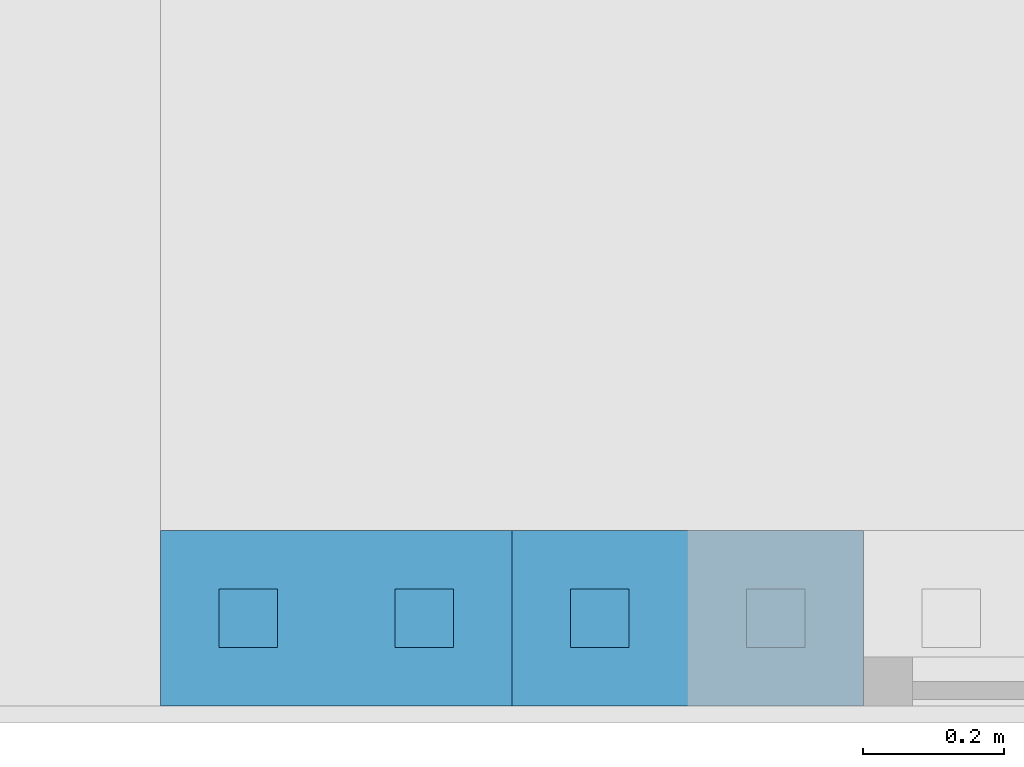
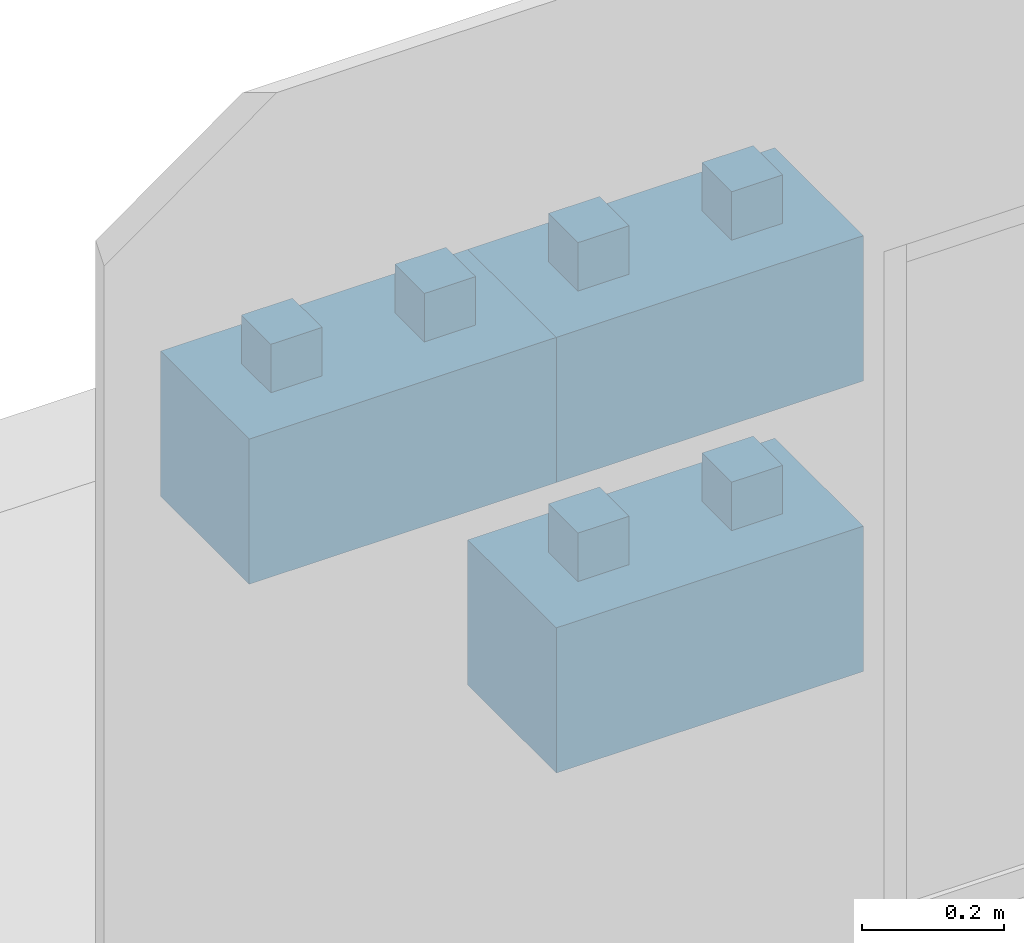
# One storey, part 3 of 9: 3 walls.
"""IFC4 building model written with IfcOpenShell, lengths in centimetres."""

from ifc_helpers import new_model, entity, si_unit, converted_unit, direction, frame, origin, place, context, subcontext, project, spatial, indexed_curve, outline, extrude, material, type_object, element, save


model = new_model("IFC4")

# Units and contexts
model_context = context("Model", 3, precision=0.001, world=origin(), true_north=direction((0.0, 1.0)))
body_context = subcontext(model_context, "Body", "Model", "MODEL_VIEW")
ifc_project = project(units=[si_unit("LENGTHUNIT", "METRE", prefix="CENTI"), si_unit("AREAUNIT", "SQUARE_METRE"), si_unit("VOLUMEUNIT", "CUBIC_METRE"), converted_unit("PLANEANGLEUNIT", "DEGREE", entity("IfcPlaneAngleMeasure", 0.017453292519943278), si_unit("PLANEANGLEUNIT", "RADIAN"), dimensions=[0, 0, 0, 0, 0, 0, 0])], contexts=[model_context])

# Site, building, storey
site_placement = place(None, origin())
site = spatial("IfcSite", under=ifc_project, at=site_placement, Name="Default", CompositionType="ELEMENT")
building_placement = place(site_placement, origin())
building = spatial("IfcBuilding", under=site, at=building_placement, CompositionType="ELEMENT")
storey_placement = place(building_placement, frame((0.0, 0.0, -4.0)))
storey = spatial("IfcBuildingStorey", under=building, at=storey_placement, Name="L00__ABOVE Slab", CompositionType="ELEMENT", Elevation=-4.000000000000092)

# Walls
ifc_material = material(Name="Miscellaneous__Timber Block__Triqbriq, X", Category="Miscellaneous")
wall_type = type_object("IfcWallType", Name="Columns : wll_s__TIMBER BLOCK__Triqbriq, Full Width__wp : WS25", PredefinedType="SOLIDWALL", material=ifc_material)
wall_1_placement = place(storey_placement, frame((2956.828914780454, 2128.520030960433, 200.0)))
element("IfcWall", 1, at=wall_1_placement, inside=storey, type_object=wall_type, material=ifc_material, Name="Columns : wll_s__TIMBER BLOCK__Triqbriq, Full Width__wp : WS25", PredefinedType="SOLIDWALL", context=body_context, shape_type="SweptSolid", body=[
    extrude(outline(indexed_curve([(-4.166666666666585, -4.166666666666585), (4.166666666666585, -4.166666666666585), (4.166666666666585, 4.166666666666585), (-4.166666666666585, 4.166666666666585), (-4.166666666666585, -4.166666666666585)], self_intersect=False)), frame((37.50000000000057, 12.500000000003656, 16.66666666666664), z_axis=(0.0, 0.0, 1.0), x_axis=(0.0, 1.0, 0.0)), (0.0, 0.0, 1.0), 16.66666666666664),
    extrude(outline(indexed_curve([(-4.166666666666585, -4.166666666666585), (4.166666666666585, -4.166666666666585), (4.166666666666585, 4.166666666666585), (-4.166666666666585, 4.166666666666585), (-4.166666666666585, -4.166666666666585)], self_intersect=False)), frame((12.500000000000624, 12.500000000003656, 16.666666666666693), z_axis=(0.0, 0.0, 1.0), x_axis=(0.0, 1.0, 0.0)), (0.0, 0.0, 1.0), 16.66666666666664),
    extrude(outline(indexed_curve([(-4.166666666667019, -4.166666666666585), (4.166666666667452, -4.166666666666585), (4.166666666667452, 4.166666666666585), (-4.166666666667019, 4.166666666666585), (-4.166666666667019, -4.166666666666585)], self_intersect=False)), frame((45.83333333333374, 20.833333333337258, 8.333333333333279), z_axis=(0.0, 0.0, 1.0), x_axis=(0.0, 1.0, 0.0)), (0.0, 0.0, 1.0), 8.333333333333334),
    extrude(outline(indexed_curve([(-4.166666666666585, -4.166666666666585), (4.166666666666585, -4.166666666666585), (4.166666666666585, 4.166666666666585), (-4.166666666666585, 4.166666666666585), (-4.166666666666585, -4.166666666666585)], self_intersect=False)), frame((45.83333333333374, 4.166666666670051, 8.333333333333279), z_axis=(0.0, 0.0, 1.0), x_axis=(0.0, 1.0, 0.0)), (0.0, 0.0, 1.0), 8.333333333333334),
    extrude(outline(indexed_curve([(-4.166666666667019, -4.166666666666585), (4.166666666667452, -4.166666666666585), (4.166666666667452, 4.166666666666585), (-4.166666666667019, 4.166666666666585), (-4.166666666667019, -4.166666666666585)], self_intersect=False)), frame((4.166666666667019, 20.833333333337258, 8.333333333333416), z_axis=(0.0, 0.0, 1.0), x_axis=(0.0, 1.0, 0.0)), (0.0, 0.0, 1.0), 8.333333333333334),
    extrude(outline(indexed_curve([(-4.166666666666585, -4.166666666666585), (4.166666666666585, -4.166666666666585), (4.166666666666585, 4.166666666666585), (-4.166666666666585, 4.166666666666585), (-4.166666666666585, -4.166666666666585)], self_intersect=False)), frame((4.166666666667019, 4.166666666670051, 8.333333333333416), z_axis=(0.0, 0.0, 1.0), x_axis=(0.0, 1.0, 0.0)), (0.0, 0.0, 1.0), 8.333333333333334),
    extrude(outline(indexed_curve([(-4.166666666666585, -8.333333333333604), (4.166666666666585, -8.333333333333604), (4.166666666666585, 8.33333333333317), (-4.166666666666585, 8.33333333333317), (-4.166666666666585, -8.333333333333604)], self_intersect=False)), frame((25.0, 4.166666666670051, 8.33333333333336), z_axis=(0.0, 0.0, 1.0), x_axis=(0.0, 1.0, 0.0)), (0.0, 0.0, 1.0), 8.333333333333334),
    extrude(outline(indexed_curve([(-4.166666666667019, -8.333333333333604), (4.166666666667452, -8.333333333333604), (4.166666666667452, 8.33333333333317), (-4.166666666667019, 8.33333333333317), (-4.166666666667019, -8.333333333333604)], self_intersect=False)), frame((25.0, 20.833333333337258, 8.33333333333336), z_axis=(0.0, 0.0, 1.0), x_axis=(0.0, 1.0, 0.0)), (0.0, 0.0, 1.0), 8.333333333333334),
    extrude(outline(indexed_curve([(-4.166666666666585, -24.999999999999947), (4.166666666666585, -24.999999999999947), (4.166666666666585, 24.999999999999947), (-4.166666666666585, 24.999999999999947), (-4.166666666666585, -24.999999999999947)], self_intersect=False)), frame((25.0, 12.500000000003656, 8.333333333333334), z_axis=(0.0, 0.0, 1.0), x_axis=(0.0, 1.0, 0.0)), (0.0, 0.0, 1.0), 8.333333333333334),
    extrude(outline(indexed_curve([(-12.500000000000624, -4.166666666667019), (12.50000000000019, -4.166666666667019), (12.50000000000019, 4.166666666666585), (-12.500000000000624, 4.166666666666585), (-12.500000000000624, -4.166666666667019)], self_intersect=False)), frame((29.1666666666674, 12.50000000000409, 0.0), z_axis=(0.0, 0.0, 1.0), x_axis=(0.0, 1.0, 0.0)), (0.0, 0.0, 1.0), 8.333333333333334),
    extrude(outline(indexed_curve([(-12.500000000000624, -4.166666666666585), (12.50000000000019, -4.166666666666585), (12.50000000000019, 4.166666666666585), (-12.500000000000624, 4.166666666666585), (-12.500000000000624, -4.166666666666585)], self_intersect=False)), frame((20.833333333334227, 12.50000000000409, 0.0), z_axis=(0.0, 0.0, 1.0), x_axis=(0.0, 1.0, 0.0)), (0.0, 0.0, 1.0), 8.333333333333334),
    extrude(outline(indexed_curve([(-12.500000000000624, -4.166666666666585), (12.50000000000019, -4.166666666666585), (12.50000000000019, 4.166666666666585), (-12.500000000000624, 4.166666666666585), (-12.500000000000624, -4.166666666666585)], self_intersect=False)), frame((45.833333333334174, 12.50000000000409, 0.0), z_axis=(0.0, 0.0, 1.0), x_axis=(0.0, 1.0, 0.0)), (0.0, 0.0, 1.0), 8.333333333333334),
    extrude(outline(indexed_curve([(-12.500000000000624, -4.166666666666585), (12.50000000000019, -4.166666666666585), (12.50000000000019, 4.166666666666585), (-12.500000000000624, 4.166666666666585), (-12.500000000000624, -4.166666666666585)], self_intersect=False)), frame((4.166666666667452, 12.50000000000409, 0.0), z_axis=(0.0, 0.0, 1.0), x_axis=(0.0, 1.0, 0.0)), (0.0, 0.0, 1.0), 8.333333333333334),
    extrude(outline(indexed_curve([(-4.166666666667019, -4.166666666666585), (4.166666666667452, -4.166666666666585), (4.166666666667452, 4.166666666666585), (-4.166666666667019, 4.166666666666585), (-4.166666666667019, -4.166666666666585)], self_intersect=False)), frame((37.500000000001, 20.833333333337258, 0.0), z_axis=(0.0, 0.0, 1.0), x_axis=(0.0, 1.0, 0.0)), (0.0, 0.0, 1.0), 24.999999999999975),
    extrude(outline(indexed_curve([(-4.166666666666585, -4.166666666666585), (4.166666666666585, -4.166666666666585), (4.166666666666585, 4.166666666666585), (-4.166666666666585, 4.166666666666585), (-4.166666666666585, -4.166666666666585)], self_intersect=False)), frame((37.500000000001, 4.166666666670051, 0.0), z_axis=(0.0, 0.0, 1.0), x_axis=(0.0, 1.0, 0.0)), (0.0, 0.0, 1.0), 24.999999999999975),
    extrude(outline(indexed_curve([(-4.166666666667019, -4.166666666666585), (4.166666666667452, -4.166666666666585), (4.166666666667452, 4.166666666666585), (-4.166666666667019, 4.166666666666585), (-4.166666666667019, -4.166666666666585)], self_intersect=False)), frame((12.500000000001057, 20.833333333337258, 0.0), z_axis=(0.0, 0.0, 1.0), x_axis=(0.0, 1.0, 0.0)), (0.0, 0.0, 1.0), 24.999999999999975),
    extrude(outline(indexed_curve([(-4.166666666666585, -4.166666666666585), (4.166666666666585, -4.166666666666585), (4.166666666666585, 4.166666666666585), (-4.166666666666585, 4.166666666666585), (-4.166666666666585, -4.166666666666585)], self_intersect=False)), frame((12.500000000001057, 4.166666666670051, 0.0), z_axis=(0.0, 0.0, 1.0), x_axis=(0.0, 1.0, 0.0)), (0.0, 0.0, 1.0), 24.999999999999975),
    extrude(outline(indexed_curve([(-12.500000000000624, -4.166666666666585), (12.50000000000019, -4.166666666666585), (12.50000000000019, 4.166666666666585), (-12.500000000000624, 4.166666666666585), (-12.500000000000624, -4.166666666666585)], self_intersect=False)), frame((45.83333333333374, 12.50000000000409, 16.666666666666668), z_axis=(0.0, 0.0, 1.0), x_axis=(0.0, 1.0, 0.0)), (0.0, 0.0, 1.0), 8.333333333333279),
    extrude(outline(indexed_curve([(-12.500000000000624, -4.166666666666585), (12.50000000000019, -4.166666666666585), (12.50000000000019, 4.166666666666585), (-12.500000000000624, 4.166666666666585), (-12.500000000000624, -4.166666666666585)], self_intersect=False)), frame((29.1666666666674, 12.50000000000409, 16.666666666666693), z_axis=(0.0, 0.0, 1.0), x_axis=(0.0, 1.0, 0.0)), (0.0, 0.0, 1.0), 8.333333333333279),
    extrude(outline(indexed_curve([(-12.500000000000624, -4.166666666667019), (12.50000000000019, -4.166666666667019), (12.50000000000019, 4.166666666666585), (-12.500000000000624, 4.166666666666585), (-12.500000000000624, -4.166666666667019)], self_intersect=False)), frame((20.833333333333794, 12.50000000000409, 16.66666666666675), z_axis=(0.0, 0.0, 1.0), x_axis=(0.0, 1.0, 0.0)), (0.0, 0.0, 1.0), 8.333333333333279),
    extrude(outline(indexed_curve([(-12.500000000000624, -4.166666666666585), (12.50000000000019, -4.166666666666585), (12.50000000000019, 4.166666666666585), (-12.500000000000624, 4.166666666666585), (-12.500000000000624, -4.166666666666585)], self_intersect=False)), frame((4.166666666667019, 12.50000000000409, 16.666666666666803), z_axis=(0.0, 0.0, 1.0), x_axis=(0.0, 1.0, 0.0)), (0.0, 0.0, 1.0), 8.333333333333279),
])
wall_2_placement = place(storey_placement, frame((2906.8289147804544, 2128.520030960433, 200.0)))
element("IfcWall", 2, at=wall_2_placement, inside=storey, type_object=wall_type, material=ifc_material, Name="Columns : wll_s__TIMBER BLOCK__Triqbriq, Full Width__wp : WS25", PredefinedType="SOLIDWALL", context=body_context, shape_type="SweptSolid", body=[
    extrude(outline(indexed_curve([(-4.166666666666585, -4.166666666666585), (4.166666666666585, -4.166666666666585), (4.166666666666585, 4.166666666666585), (-4.166666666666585, 4.166666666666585), (-4.166666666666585, -4.166666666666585)], self_intersect=False)), frame((37.50000000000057, 12.500000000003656, 16.666666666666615), z_axis=(0.0, 0.0, 1.0), x_axis=(0.0, 1.0, 0.0)), (0.0, 0.0, 1.0), 16.66666666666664),
    extrude(outline(indexed_curve([(-4.166666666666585, -4.166666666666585), (4.166666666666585, -4.166666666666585), (4.166666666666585, 4.166666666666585), (-4.166666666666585, 4.166666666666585), (-4.166666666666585, -4.166666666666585)], self_intersect=False)), frame((12.500000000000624, 12.500000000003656, 16.666666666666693), z_axis=(0.0, 0.0, 1.0), x_axis=(0.0, 1.0, 0.0)), (0.0, 0.0, 1.0), 16.66666666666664),
    extrude(outline(indexed_curve([(-4.166666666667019, -4.166666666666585), (4.166666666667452, -4.166666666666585), (4.166666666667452, 4.166666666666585), (-4.166666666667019, 4.166666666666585), (-4.166666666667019, -4.166666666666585)], self_intersect=False)), frame((45.83333333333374, 20.833333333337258, 8.333333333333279), z_axis=(0.0, 0.0, 1.0), x_axis=(0.0, 1.0, 0.0)), (0.0, 0.0, 1.0), 8.333333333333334),
    extrude(outline(indexed_curve([(-4.166666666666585, -4.166666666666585), (4.166666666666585, -4.166666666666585), (4.166666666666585, 4.166666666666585), (-4.166666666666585, 4.166666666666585), (-4.166666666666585, -4.166666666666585)], self_intersect=False)), frame((45.83333333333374, 4.166666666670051, 8.333333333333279), z_axis=(0.0, 0.0, 1.0), x_axis=(0.0, 1.0, 0.0)), (0.0, 0.0, 1.0), 8.333333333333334),
    extrude(outline(indexed_curve([(-4.166666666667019, -4.166666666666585), (4.166666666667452, -4.166666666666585), (4.166666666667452, 4.166666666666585), (-4.166666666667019, 4.166666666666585), (-4.166666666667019, -4.166666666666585)], self_intersect=False)), frame((4.166666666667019, 20.833333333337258, 8.333333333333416), z_axis=(0.0, 0.0, 1.0), x_axis=(0.0, 1.0, 0.0)), (0.0, 0.0, 1.0), 8.333333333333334),
    extrude(outline(indexed_curve([(-4.166666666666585, -4.166666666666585), (4.166666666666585, -4.166666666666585), (4.166666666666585, 4.166666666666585), (-4.166666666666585, 4.166666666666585), (-4.166666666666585, -4.166666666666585)], self_intersect=False)), frame((4.166666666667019, 4.166666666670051, 8.333333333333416), z_axis=(0.0, 0.0, 1.0), x_axis=(0.0, 1.0, 0.0)), (0.0, 0.0, 1.0), 8.333333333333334),
    extrude(outline(indexed_curve([(-4.166666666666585, -8.33333333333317), (4.166666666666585, -8.33333333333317), (4.166666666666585, 8.333333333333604), (-4.166666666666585, 8.333333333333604), (-4.166666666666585, -8.33333333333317)], self_intersect=False)), frame((25.0, 4.166666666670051, 8.333333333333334), z_axis=(0.0, 0.0, 1.0), x_axis=(0.0, 1.0, 0.0)), (0.0, 0.0, 1.0), 8.333333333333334),
    extrude(outline(indexed_curve([(-4.166666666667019, -8.33333333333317), (4.166666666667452, -8.33333333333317), (4.166666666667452, 8.333333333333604), (-4.166666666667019, 8.333333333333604), (-4.166666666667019, -8.33333333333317)], self_intersect=False)), frame((25.0, 20.833333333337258, 8.333333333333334), z_axis=(0.0, 0.0, 1.0), x_axis=(0.0, 1.0, 0.0)), (0.0, 0.0, 1.0), 8.333333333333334),
    extrude(outline(indexed_curve([(-4.166666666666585, -24.999999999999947), (4.166666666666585, -24.999999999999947), (4.166666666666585, 24.999999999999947), (-4.166666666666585, 24.999999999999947), (-4.166666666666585, -24.999999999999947)], self_intersect=False)), frame((25.0, 12.500000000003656, 8.333333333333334), z_axis=(0.0, 0.0, 1.0), x_axis=(0.0, 1.0, 0.0)), (0.0, 0.0, 1.0), 8.333333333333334),
    extrude(outline(indexed_curve([(-12.500000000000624, -4.166666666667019), (12.50000000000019, -4.166666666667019), (12.50000000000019, 4.166666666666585), (-12.500000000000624, 4.166666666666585), (-12.500000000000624, -4.166666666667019)], self_intersect=False)), frame((29.1666666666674, 12.50000000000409, 0.0), z_axis=(0.0, 0.0, 1.0), x_axis=(0.0, 1.0, 0.0)), (0.0, 0.0, 1.0), 8.333333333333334),
    extrude(outline(indexed_curve([(-12.500000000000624, -4.166666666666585), (12.50000000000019, -4.166666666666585), (12.50000000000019, 4.166666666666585), (-12.500000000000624, 4.166666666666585), (-12.500000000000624, -4.166666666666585)], self_intersect=False)), frame((20.833333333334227, 12.50000000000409, 0.0), z_axis=(0.0, 0.0, 1.0), x_axis=(0.0, 1.0, 0.0)), (0.0, 0.0, 1.0), 8.333333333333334),
    extrude(outline(indexed_curve([(-12.500000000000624, -4.166666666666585), (12.50000000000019, -4.166666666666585), (12.50000000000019, 4.166666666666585), (-12.500000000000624, 4.166666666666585), (-12.500000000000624, -4.166666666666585)], self_intersect=False)), frame((45.833333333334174, 12.50000000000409, 0.0), z_axis=(0.0, 0.0, 1.0), x_axis=(0.0, 1.0, 0.0)), (0.0, 0.0, 1.0), 8.333333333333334),
    extrude(outline(indexed_curve([(-12.500000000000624, -4.166666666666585), (12.50000000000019, -4.166666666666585), (12.50000000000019, 4.166666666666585), (-12.500000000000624, 4.166666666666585), (-12.500000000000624, -4.166666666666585)], self_intersect=False)), frame((4.166666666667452, 12.50000000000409, 0.0), z_axis=(0.0, 0.0, 1.0), x_axis=(0.0, 1.0, 0.0)), (0.0, 0.0, 1.0), 8.333333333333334),
    extrude(outline(indexed_curve([(-4.166666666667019, -4.166666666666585), (4.166666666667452, -4.166666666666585), (4.166666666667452, 4.166666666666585), (-4.166666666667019, 4.166666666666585), (-4.166666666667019, -4.166666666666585)], self_intersect=False)), frame((37.500000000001, 20.833333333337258, 0.0), z_axis=(0.0, 0.0, 1.0), x_axis=(0.0, 1.0, 0.0)), (0.0, 0.0, 1.0), 24.999999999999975),
    extrude(outline(indexed_curve([(-4.166666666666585, -4.166666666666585), (4.166666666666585, -4.166666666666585), (4.166666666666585, 4.166666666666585), (-4.166666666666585, 4.166666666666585), (-4.166666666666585, -4.166666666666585)], self_intersect=False)), frame((37.500000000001, 4.166666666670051, 0.0), z_axis=(0.0, 0.0, 1.0), x_axis=(0.0, 1.0, 0.0)), (0.0, 0.0, 1.0), 24.999999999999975),
    extrude(outline(indexed_curve([(-4.166666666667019, -4.166666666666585), (4.166666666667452, -4.166666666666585), (4.166666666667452, 4.166666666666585), (-4.166666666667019, 4.166666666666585), (-4.166666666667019, -4.166666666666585)], self_intersect=False)), frame((12.500000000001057, 20.833333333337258, 0.0), z_axis=(0.0, 0.0, 1.0), x_axis=(0.0, 1.0, 0.0)), (0.0, 0.0, 1.0), 24.999999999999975),
    extrude(outline(indexed_curve([(-4.166666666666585, -4.166666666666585), (4.166666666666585, -4.166666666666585), (4.166666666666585, 4.166666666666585), (-4.166666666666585, 4.166666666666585), (-4.166666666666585, -4.166666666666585)], self_intersect=False)), frame((12.500000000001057, 4.166666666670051, 0.0), z_axis=(0.0, 0.0, 1.0), x_axis=(0.0, 1.0, 0.0)), (0.0, 0.0, 1.0), 24.999999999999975),
    extrude(outline(indexed_curve([(-12.500000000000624, -4.166666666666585), (12.50000000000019, -4.166666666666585), (12.50000000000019, 4.166666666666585), (-12.500000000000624, 4.166666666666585), (-12.500000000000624, -4.166666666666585)], self_intersect=False)), frame((45.83333333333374, 12.50000000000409, 16.666666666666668), z_axis=(0.0, 0.0, 1.0), x_axis=(0.0, 1.0, 0.0)), (0.0, 0.0, 1.0), 8.333333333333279),
    extrude(outline(indexed_curve([(-12.500000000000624, -4.166666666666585), (12.50000000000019, -4.166666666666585), (12.50000000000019, 4.166666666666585), (-12.500000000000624, 4.166666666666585), (-12.500000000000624, -4.166666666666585)], self_intersect=False)), frame((29.1666666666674, 12.50000000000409, 16.666666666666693), z_axis=(0.0, 0.0, 1.0), x_axis=(0.0, 1.0, 0.0)), (0.0, 0.0, 1.0), 8.333333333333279),
    extrude(outline(indexed_curve([(-12.500000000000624, -4.166666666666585), (12.50000000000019, -4.166666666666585), (12.50000000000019, 4.166666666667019), (-12.500000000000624, 4.166666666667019), (-12.500000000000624, -4.166666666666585)], self_intersect=False)), frame((20.833333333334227, 12.50000000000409, 16.66666666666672), z_axis=(0.0, 0.0, 1.0), x_axis=(0.0, 1.0, 0.0)), (0.0, 0.0, 1.0), 8.333333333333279),
    extrude(outline(indexed_curve([(-12.500000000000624, -4.166666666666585), (12.50000000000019, -4.166666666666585), (12.50000000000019, 4.166666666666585), (-12.500000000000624, 4.166666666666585), (-12.500000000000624, -4.166666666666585)], self_intersect=False)), frame((4.166666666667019, 12.50000000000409, 16.666666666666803), z_axis=(0.0, 0.0, 1.0), x_axis=(0.0, 1.0, 0.0)), (0.0, 0.0, 1.0), 8.333333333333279),
])
wall_3_placement = place(storey_placement, frame((2956.828914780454, 2128.5200309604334, 150.0)))
element("IfcWall", 3, at=wall_3_placement, inside=storey, type_object=wall_type, material=ifc_material, Name="Columns : wll_s__TIMBER BLOCK__Triqbriq, Full Width__wp : WS25", PredefinedType="SOLIDWALL", context=body_context, shape_type="SweptSolid", body=[
    extrude(outline(indexed_curve([(-4.166666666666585, -4.166666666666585), (4.166666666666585, -4.166666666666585), (4.166666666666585, 4.166666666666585), (-4.166666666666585, 4.166666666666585), (-4.166666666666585, -4.166666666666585)], self_intersect=False)), frame((37.50000000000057, 12.500000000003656, 16.66666666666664), z_axis=(0.0, 0.0, 1.0), x_axis=(0.0, 1.0, 0.0)), (0.0, 0.0, 1.0), 16.66666666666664),
    extrude(outline(indexed_curve([(-4.166666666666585, -4.166666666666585), (4.166666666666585, -4.166666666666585), (4.166666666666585, 4.166666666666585), (-4.166666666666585, 4.166666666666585), (-4.166666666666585, -4.166666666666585)], self_intersect=False)), frame((12.500000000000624, 12.500000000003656, 16.666666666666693), z_axis=(0.0, 0.0, 1.0), x_axis=(0.0, 1.0, 0.0)), (0.0, 0.0, 1.0), 16.66666666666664),
    extrude(outline(indexed_curve([(-4.166666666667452, -4.166666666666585), (4.166666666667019, -4.166666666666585), (4.166666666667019, 4.166666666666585), (-4.166666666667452, 4.166666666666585), (-4.166666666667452, -4.166666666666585)], self_intersect=False)), frame((45.83333333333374, 20.83333333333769, 8.333333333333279), z_axis=(0.0, 0.0, 1.0), x_axis=(0.0, 1.0, 0.0)), (0.0, 0.0, 1.0), 8.333333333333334),
    extrude(outline(indexed_curve([(-4.166666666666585, -4.166666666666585), (4.166666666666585, -4.166666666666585), (4.166666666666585, 4.166666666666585), (-4.166666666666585, 4.166666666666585), (-4.166666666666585, -4.166666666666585)], self_intersect=False)), frame((45.83333333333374, 4.166666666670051, 8.333333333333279), z_axis=(0.0, 0.0, 1.0), x_axis=(0.0, 1.0, 0.0)), (0.0, 0.0, 1.0), 8.333333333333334),
    extrude(outline(indexed_curve([(-4.166666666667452, -4.166666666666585), (4.166666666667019, -4.166666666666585), (4.166666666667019, 4.166666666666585), (-4.166666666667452, 4.166666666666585), (-4.166666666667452, -4.166666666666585)], self_intersect=False)), frame((4.166666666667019, 20.83333333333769, 8.333333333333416), z_axis=(0.0, 0.0, 1.0), x_axis=(0.0, 1.0, 0.0)), (0.0, 0.0, 1.0), 8.333333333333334),
    extrude(outline(indexed_curve([(-4.166666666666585, -4.166666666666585), (4.166666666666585, -4.166666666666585), (4.166666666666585, 4.166666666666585), (-4.166666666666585, 4.166666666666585), (-4.166666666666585, -4.166666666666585)], self_intersect=False)), frame((4.166666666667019, 4.166666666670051, 8.333333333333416), z_axis=(0.0, 0.0, 1.0), x_axis=(0.0, 1.0, 0.0)), (0.0, 0.0, 1.0), 8.333333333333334),
    extrude(outline(indexed_curve([(-4.166666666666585, -8.333333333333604), (4.166666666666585, -8.333333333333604), (4.166666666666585, 8.33333333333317), (-4.166666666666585, 8.33333333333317), (-4.166666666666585, -8.333333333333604)], self_intersect=False)), frame((25.0, 4.166666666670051, 8.333333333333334), z_axis=(0.0, 0.0, 1.0), x_axis=(0.0, 1.0, 0.0)), (0.0, 0.0, 1.0), 8.333333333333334),
    extrude(outline(indexed_curve([(-4.166666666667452, -8.333333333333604), (4.166666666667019, -8.333333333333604), (4.166666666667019, 8.33333333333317), (-4.166666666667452, 8.33333333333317), (-4.166666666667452, -8.333333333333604)], self_intersect=False)), frame((25.0, 20.83333333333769, 8.333333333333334), z_axis=(0.0, 0.0, 1.0), x_axis=(0.0, 1.0, 0.0)), (0.0, 0.0, 1.0), 8.333333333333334),
    extrude(outline(indexed_curve([(-4.166666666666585, -24.999999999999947), (4.166666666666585, -24.999999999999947), (4.166666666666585, 24.999999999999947), (-4.166666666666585, 24.999999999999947), (-4.166666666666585, -24.999999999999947)], self_intersect=False)), frame((25.0, 12.500000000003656, 8.333333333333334), z_axis=(0.0, 0.0, 1.0), x_axis=(0.0, 1.0, 0.0)), (0.0, 0.0, 1.0), 8.333333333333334),
    extrude(outline(indexed_curve([(-12.50000000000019, -4.166666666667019), (12.500000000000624, -4.166666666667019), (12.500000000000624, 4.166666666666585), (-12.50000000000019, 4.166666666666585), (-12.50000000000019, -4.166666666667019)], self_intersect=False)), frame((29.1666666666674, 12.500000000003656, 0.0), z_axis=(0.0, 0.0, 1.0), x_axis=(0.0, 1.0, 0.0)), (0.0, 0.0, 1.0), 8.333333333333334),
    extrude(outline(indexed_curve([(-12.50000000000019, -4.166666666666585), (12.500000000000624, -4.166666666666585), (12.500000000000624, 4.166666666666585), (-12.50000000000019, 4.166666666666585), (-12.50000000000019, -4.166666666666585)], self_intersect=False)), frame((20.833333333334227, 12.500000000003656, 0.0), z_axis=(0.0, 0.0, 1.0), x_axis=(0.0, 1.0, 0.0)), (0.0, 0.0, 1.0), 8.333333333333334),
    extrude(outline(indexed_curve([(-12.50000000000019, -4.166666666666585), (12.500000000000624, -4.166666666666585), (12.500000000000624, 4.166666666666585), (-12.50000000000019, 4.166666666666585), (-12.50000000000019, -4.166666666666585)], self_intersect=False)), frame((45.833333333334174, 12.500000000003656, 0.0), z_axis=(0.0, 0.0, 1.0), x_axis=(0.0, 1.0, 0.0)), (0.0, 0.0, 1.0), 8.333333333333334),
    extrude(outline(indexed_curve([(-12.50000000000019, -4.166666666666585), (12.500000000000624, -4.166666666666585), (12.500000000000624, 4.166666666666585), (-12.50000000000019, 4.166666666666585), (-12.50000000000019, -4.166666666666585)], self_intersect=False)), frame((4.166666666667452, 12.500000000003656, 0.0), z_axis=(0.0, 0.0, 1.0), x_axis=(0.0, 1.0, 0.0)), (0.0, 0.0, 1.0), 8.333333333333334),
    extrude(outline(indexed_curve([(-4.166666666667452, -4.166666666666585), (4.166666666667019, -4.166666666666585), (4.166666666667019, 4.166666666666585), (-4.166666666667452, 4.166666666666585), (-4.166666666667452, -4.166666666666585)], self_intersect=False)), frame((37.500000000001, 20.83333333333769, 0.0), z_axis=(0.0, 0.0, 1.0), x_axis=(0.0, 1.0, 0.0)), (0.0, 0.0, 1.0), 24.999999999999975),
    extrude(outline(indexed_curve([(-4.166666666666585, -4.166666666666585), (4.166666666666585, -4.166666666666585), (4.166666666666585, 4.166666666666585), (-4.166666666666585, 4.166666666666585), (-4.166666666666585, -4.166666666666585)], self_intersect=False)), frame((37.500000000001, 4.166666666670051, 0.0), z_axis=(0.0, 0.0, 1.0), x_axis=(0.0, 1.0, 0.0)), (0.0, 0.0, 1.0), 24.999999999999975),
    extrude(outline(indexed_curve([(-4.166666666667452, -4.166666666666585), (4.166666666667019, -4.166666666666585), (4.166666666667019, 4.166666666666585), (-4.166666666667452, 4.166666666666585), (-4.166666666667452, -4.166666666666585)], self_intersect=False)), frame((12.500000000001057, 20.83333333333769, 0.0), z_axis=(0.0, 0.0, 1.0), x_axis=(0.0, 1.0, 0.0)), (0.0, 0.0, 1.0), 24.999999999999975),
    extrude(outline(indexed_curve([(-4.166666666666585, -4.166666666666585), (4.166666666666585, -4.166666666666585), (4.166666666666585, 4.166666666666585), (-4.166666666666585, 4.166666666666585), (-4.166666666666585, -4.166666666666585)], self_intersect=False)), frame((12.500000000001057, 4.166666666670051, 0.0), z_axis=(0.0, 0.0, 1.0), x_axis=(0.0, 1.0, 0.0)), (0.0, 0.0, 1.0), 24.999999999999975),
    extrude(outline(indexed_curve([(-12.50000000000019, -4.166666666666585), (12.500000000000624, -4.166666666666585), (12.500000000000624, 4.166666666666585), (-12.50000000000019, 4.166666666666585), (-12.50000000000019, -4.166666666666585)], self_intersect=False)), frame((45.83333333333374, 12.500000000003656, 16.666666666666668), z_axis=(0.0, 0.0, 1.0), x_axis=(0.0, 1.0, 0.0)), (0.0, 0.0, 1.0), 8.333333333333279),
    extrude(outline(indexed_curve([(-12.50000000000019, -4.166666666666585), (12.500000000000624, -4.166666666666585), (12.500000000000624, 4.166666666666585), (-12.50000000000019, 4.166666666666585), (-12.50000000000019, -4.166666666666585)], self_intersect=False)), frame((29.1666666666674, 12.500000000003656, 16.666666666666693), z_axis=(0.0, 0.0, 1.0), x_axis=(0.0, 1.0, 0.0)), (0.0, 0.0, 1.0), 8.333333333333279),
    extrude(outline(indexed_curve([(-12.50000000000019, -4.166666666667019), (12.500000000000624, -4.166666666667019), (12.500000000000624, 4.166666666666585), (-12.50000000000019, 4.166666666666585), (-12.50000000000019, -4.166666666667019)], self_intersect=False)), frame((20.833333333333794, 12.500000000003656, 16.66666666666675), z_axis=(0.0, 0.0, 1.0), x_axis=(0.0, 1.0, 0.0)), (0.0, 0.0, 1.0), 8.333333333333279),
    extrude(outline(indexed_curve([(-12.50000000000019, -4.166666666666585), (12.500000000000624, -4.166666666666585), (12.500000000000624, 4.166666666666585), (-12.50000000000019, 4.166666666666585), (-12.50000000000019, -4.166666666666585)], self_intersect=False)), frame((4.166666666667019, 12.500000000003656, 16.666666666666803), z_axis=(0.0, 0.0, 1.0), x_axis=(0.0, 1.0, 0.0)), (0.0, 0.0, 1.0), 8.333333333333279),
])

save(model, "model.ifc")
